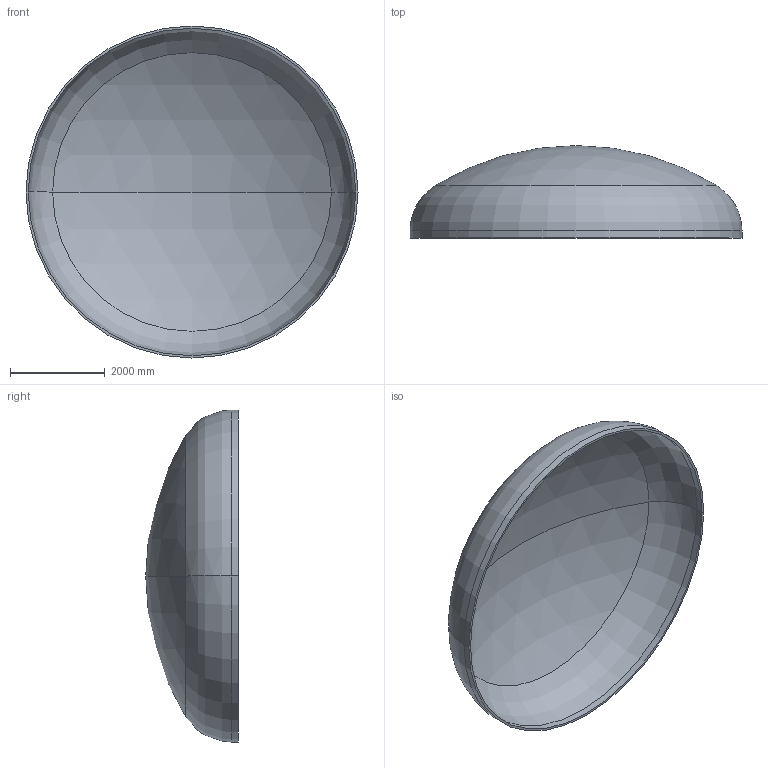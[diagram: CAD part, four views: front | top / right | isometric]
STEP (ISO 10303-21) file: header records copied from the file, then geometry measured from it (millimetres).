
FILE_DESCRIPTION (( 'STEP AP203' ), '1' );
FILE_NAME ('DIN 28013 Korbbogenform_-_Boden DIN 28013 - 7000 x 150 - I - s=48.step', '2016-07-04T10:47:52', ( '' ), ( '' ), 'SwSTEP 2.0', 'SolidWorks 2013', '' );
FILE_SCHEMA (( 'CONFIG_CONTROL_DESIGN' ));
Length unit declared in the file: millimetre
Products named in the file (1): DIN 28013 Korbbogenform_-_Boden DIN 28013 - 7000 x 150 - I - s=48
Bounding box: 7000 x 1950.4 x 7000 mm (x, y, z)
Volume: 2693537283.1 mm3; surface area: 113283839.4 mm2
Topology: 1 solids, 1 shells, 13 faces, 24 edges, 14 vertices
Faces by surface type: torus 4, cylinder 4, sphere 4, plane 1
Entity records: 407 total; most frequent: DIRECTION 72, CARTESIAN_POINT 52, ORIENTED_EDGE 48, AXIS2_PLACEMENT_3D 34, EDGE_CURVE 24, CIRCLE 20, VERTEX_POINT 14, EDGE_LOOP 14
